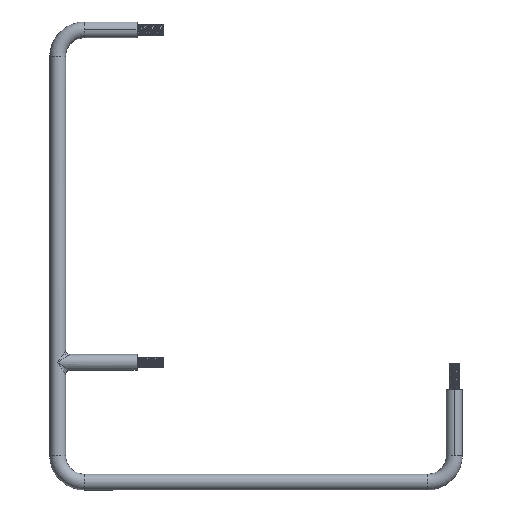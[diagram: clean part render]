
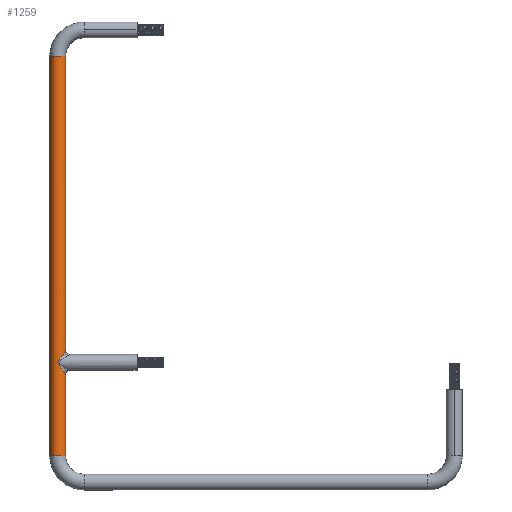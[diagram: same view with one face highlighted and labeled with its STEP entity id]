
A CAD part, top view. The second image highlights one B-rep face of the part: STEP entity #1259.
In plain terms, the highlighted cylindrical face has radius 6 mm (diameter 12 mm), a partial arc.
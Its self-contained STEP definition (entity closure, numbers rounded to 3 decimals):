
#973 = ORIENTED_EDGE ( 'NONE', *, *, #1279, .T. ) ;
#1048 = VERTEX_POINT ( 'NONE', #4667 ) ;
#1061 = ORIENTED_EDGE ( 'NONE', *, *, #1262, .F. ) ;
#1063 = EDGE_CURVE ( 'NONE', #3324, #1048, #4693, .T. ) ;
#1067 = EDGE_CURVE ( 'NONE', #18364, #1048, #4685, .T. ) ;
#1068 = ORIENTED_EDGE ( 'NONE', *, *, #1067, .T. ) ;
#1072 = ORIENTED_EDGE ( 'NONE', *, *, #3382, .T. ) ;
#1076 = ORIENTED_EDGE ( 'NONE', *, *, #1082, .T. ) ;
#1082 = EDGE_CURVE ( 'NONE', #1106, #18364, #4717, .T. ) ;
#1106 = VERTEX_POINT ( 'NONE', #4686 ) ;
#1110 = ORIENTED_EDGE ( 'NONE', *, *, #3383, .F. ) ;
#1259 = ADVANCED_FACE ( 'NONE', ( #5030 ), #5025, .T. ) ;
#1262 = EDGE_CURVE ( 'NONE', #1106, #3391, #5056, .T. ) ;
#1279 = EDGE_CURVE ( 'NONE', #3325, #3394, #5071, .T. ) ;
#3324 = VERTEX_POINT ( 'NONE', #17063 ) ;
#3325 = VERTEX_POINT ( 'NONE', #17059 ) ;
#3382 = EDGE_CURVE ( 'NONE', #3394, #3391, #17217, .T. ) ;
#3383 = EDGE_CURVE ( 'NONE', #3325, #3324, #17204, .T. ) ;
#3391 = VERTEX_POINT ( 'NONE', #17247 ) ;
#3394 = VERTEX_POINT ( 'NONE', #17200 ) ;
#4667 = CARTESIAN_POINT ( 'NONE',  ( -54., -242.5, 0. ) ) ;
#4680 = CARTESIAN_POINT ( 'NONE',  ( -54., -242.5, 0. ) ) ;
#4681 = CARTESIAN_POINT ( 'NONE',  ( -54., -242.5, 3.515 ) ) ;
#4682 = CARTESIAN_POINT ( 'NONE',  ( -56.485, -246.228, 6. ) ) ;
#4683 = CARTESIAN_POINT ( 'NONE',  ( -60., -251.5, 6. ) ) ;
#4685 =( BOUNDED_CURVE ( )  B_SPLINE_CURVE ( 3, ( #4683, #4682, #4681, #4680 ),
 .UNSPECIFIED., .F., .T. ) 
 B_SPLINE_CURVE_WITH_KNOTS ( ( 4, 4 ),
 ( 4.712, 6.283 ),
 .UNSPECIFIED. ) 
 CURVE ( )  GEOMETRIC_REPRESENTATION_ITEM ( )  RATIONAL_B_SPLINE_CURVE ( ( 1., 0.805, 0.805, 1. ) ) 
 REPRESENTATION_ITEM ( '' )  );
#4686 = CARTESIAN_POINT ( 'NONE',  ( -54., -260.5, 0. ) ) ;
#4688 = DIRECTION ( 'NONE',  ( 0., -1., 0. ) ) ;
#4691 = VECTOR ( 'NONE', #4688, 1000. ) ;
#4692 = CARTESIAN_POINT ( 'NONE',  ( -54., -20., 0. ) ) ;
#4693 = LINE ( 'NONE', #4692, #4691 ) ;
#4713 = CARTESIAN_POINT ( 'NONE',  ( -60., -251.5, 6. ) ) ;
#4714 = CARTESIAN_POINT ( 'NONE',  ( -56.485, -256.772, 6. ) ) ;
#4715 = CARTESIAN_POINT ( 'NONE',  ( -54., -260.5, 3.515 ) ) ;
#4716 = CARTESIAN_POINT ( 'NONE',  ( -54., -260.5, 0. ) ) ;
#4717 =( BOUNDED_CURVE ( )  B_SPLINE_CURVE ( 3, ( #4716, #4715, #4714, #4713 ),
 .UNSPECIFIED., .F., .T. ) 
 B_SPLINE_CURVE_WITH_KNOTS ( ( 4, 4 ),
 ( 0., 1.571 ),
 .UNSPECIFIED. ) 
 CURVE ( )  GEOMETRIC_REPRESENTATION_ITEM ( )  RATIONAL_B_SPLINE_CURVE ( ( 1., 0.805, 0.805, 1. ) ) 
 REPRESENTATION_ITEM ( '' )  );
#5021 = DIRECTION ( 'NONE',  ( 1., 0., 0. ) ) ;
#5022 = DIRECTION ( 'NONE',  ( 0., -1., 0. ) ) ;
#5023 = CARTESIAN_POINT ( 'NONE',  ( -60., -20., 0. ) ) ;
#5024 = AXIS2_PLACEMENT_3D ( 'NONE', #5023, #5022, #5021 ) ;
#5025 = CYLINDRICAL_SURFACE ( 'NONE', #5024, 6. ) ;
#5030 = FACE_OUTER_BOUND ( 'NONE', #18371, .T. ) ;
#5053 = DIRECTION ( 'NONE',  ( 0., -1., 0. ) ) ;
#5054 = VECTOR ( 'NONE', #5053, 1000. ) ;
#5055 = CARTESIAN_POINT ( 'NONE',  ( -54., -20., 0. ) ) ;
#5056 = LINE ( 'NONE', #5055, #5054 ) ;
#5068 = DIRECTION ( 'NONE',  ( 0., -1., 0. ) ) ;
#5069 = VECTOR ( 'NONE', #5068, 1000. ) ;
#5070 = CARTESIAN_POINT ( 'NONE',  ( -66., -20., 0. ) ) ;
#5071 = LINE ( 'NONE', #5070, #5069 ) ;
#17059 = CARTESIAN_POINT ( 'NONE',  ( -66., -20., 0. ) ) ;
#17063 = CARTESIAN_POINT ( 'NONE',  ( -54., -20., 0. ) ) ;
#17195 = DIRECTION ( 'NONE',  ( 0., 0., -1. ) ) ;
#17196 = DIRECTION ( 'NONE',  ( 0., 1., 0. ) ) ;
#17200 = CARTESIAN_POINT ( 'NONE',  ( -66., -322., 0. ) ) ;
#17201 = DIRECTION ( 'NONE',  ( 0., 0., -1. ) ) ;
#17202 = DIRECTION ( 'NONE',  ( 0., 1., 0. ) ) ;
#17203 = CARTESIAN_POINT ( 'NONE',  ( -60., -322., 0. ) ) ;
#17204 = CIRCLE ( 'NONE', #17206, 6. ) ;
#17206 = AXIS2_PLACEMENT_3D ( 'NONE', #17216, #17196, #17195 ) ;
#17211 = AXIS2_PLACEMENT_3D ( 'NONE', #17203, #17202, #17201 ) ;
#17216 = CARTESIAN_POINT ( 'NONE',  ( -60., -20., 0. ) ) ;
#17217 = CIRCLE ( 'NONE', #17211, 6. ) ;
#17247 = CARTESIAN_POINT ( 'NONE',  ( -54., -322., 0. ) ) ;
#18074 = CARTESIAN_POINT ( 'NONE',  ( -60., -251.5, 6. ) ) ;
#18363 = ORIENTED_EDGE ( 'NONE', *, *, #1063, .F. ) ;
#18364 = VERTEX_POINT ( 'NONE', #18074 ) ;
#18371 = EDGE_LOOP ( 'NONE', ( #1110, #973, #1072, #1061, #1076, #1068, #18363 ) ) ;
